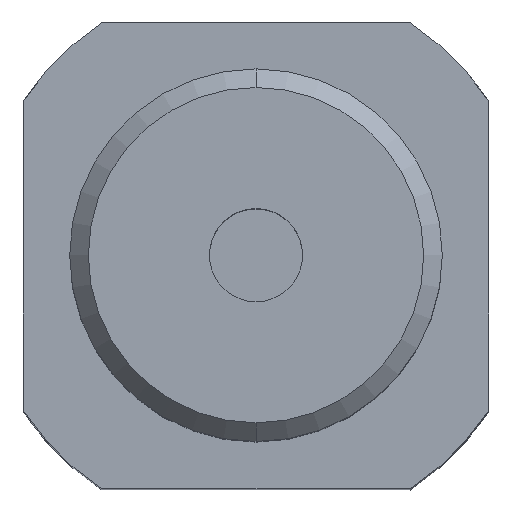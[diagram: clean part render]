
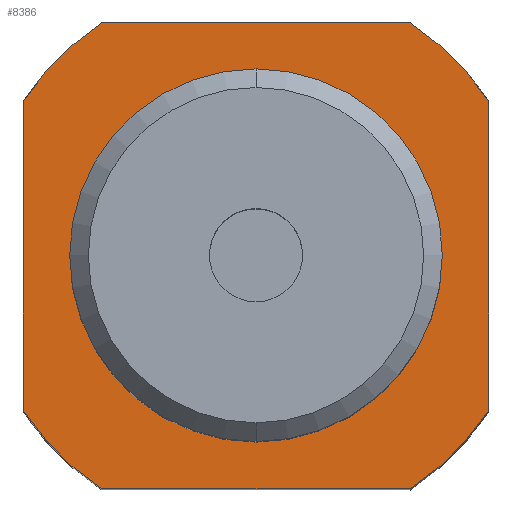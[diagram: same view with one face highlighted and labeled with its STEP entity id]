
A CAD part, top view. The second image highlights one B-rep face of the part: STEP entity #8386.
In plain terms, the highlighted planar face has unit normal (0, 0, 1).
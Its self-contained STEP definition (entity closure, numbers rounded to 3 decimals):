
#72 = CARTESIAN_POINT ( 'NONE',  ( -12.921, 24.686, 10.244 ) ) ;
#79 = CIRCLE ( 'NONE', #965, 10. ) ;
#80 = EDGE_CURVE ( 'NONE', #3268, #315, #2908, .T. ) ;
#267 = VERTEX_POINT ( 'NONE', #7998 ) ;
#281 = VERTEX_POINT ( 'NONE', #1155 ) ;
#315 = VERTEX_POINT ( 'NONE', #3474 ) ;
#367 = LINE ( 'NONE', #6983, #4239 ) ;
#437 = DIRECTION ( 'NONE',  ( 1., 0., 0. ) ) ;
#586 = CARTESIAN_POINT ( 'NONE',  ( -4.63, 2.186, 10.244 ) ) ;
#599 = CIRCLE ( 'NONE', #7098, 15. ) ;
#844 = DIRECTION ( 'NONE',  ( 1., 0., 0. ) ) ;
#864 = CARTESIAN_POINT ( 'NONE',  ( -4.63, 22.186, 10.244 ) ) ;
#904 = VECTOR ( 'NONE', #8998, 1000. ) ;
#932 = DIRECTION ( 'NONE',  ( 0., 1., 0. ) ) ;
#940 = EDGE_LOOP ( 'NONE', ( #8060, #4061, #1644, #2140, #8967, #1582, #1025, #1832 ) ) ;
#945 = EDGE_CURVE ( 'NONE', #267, #3268, #8021, .T. ) ;
#965 = AXIS2_PLACEMENT_3D ( 'NONE', #6794, #6760, #8267 ) ;
#1025 = ORIENTED_EDGE ( 'NONE', *, *, #4291, .T. ) ;
#1043 = EDGE_CURVE ( 'NONE', #7310, #3372, #9539, .T. ) ;
#1155 = CARTESIAN_POINT ( 'NONE',  ( -17.13, 3.894, 10.244 ) ) ;
#1582 = ORIENTED_EDGE ( 'NONE', *, *, #8227, .T. ) ;
#1619 = DIRECTION ( 'NONE',  ( 0., 0., -1. ) ) ;
#1644 = ORIENTED_EDGE ( 'NONE', *, *, #80, .T. ) ;
#1727 = FACE_OUTER_BOUND ( 'NONE', #940, .T. ) ;
#1832 = ORIENTED_EDGE ( 'NONE', *, *, #6713, .T. ) ;
#2027 = CARTESIAN_POINT ( 'NONE',  ( -12.921, -0.314, 10.244 ) ) ;
#2140 = ORIENTED_EDGE ( 'NONE', *, *, #6717, .T. ) ;
#2619 = CARTESIAN_POINT ( 'NONE',  ( -17.13, -0.314, 10.244 ) ) ;
#2687 = AXIS2_PLACEMENT_3D ( 'NONE', #5349, #3037, #2975 ) ;
#2908 = CIRCLE ( 'NONE', #3195, 15. ) ;
#2948 = CARTESIAN_POINT ( 'NONE',  ( 7.87, 3.894, 10.244 ) ) ;
#2967 = ORIENTED_EDGE ( 'NONE', *, *, #5885, .T. ) ;
#2975 = DIRECTION ( 'NONE',  ( 0., 1., 0. ) ) ;
#3037 = DIRECTION ( 'NONE',  ( 0., 0., 1. ) ) ;
#3057 = VERTEX_POINT ( 'NONE', #9524 ) ;
#3195 = AXIS2_PLACEMENT_3D ( 'NONE', #9250, #4000, #932 ) ;
#3268 = VERTEX_POINT ( 'NONE', #72 ) ;
#3372 = VERTEX_POINT ( 'NONE', #864 ) ;
#3413 = CARTESIAN_POINT ( 'NONE',  ( -17.13, 12.186, 10.244 ) ) ;
#3474 = CARTESIAN_POINT ( 'NONE',  ( -17.13, 20.477, 10.244 ) ) ;
#3725 = DIRECTION ( 'NONE',  ( 0., 1., 0. ) ) ;
#3728 = FACE_BOUND ( 'NONE', #9169, .T. ) ;
#3768 = CARTESIAN_POINT ( 'NONE',  ( 3.662, -0.314, 10.244 ) ) ;
#3966 = AXIS2_PLACEMENT_3D ( 'NONE', #2619, #6516, #437 ) ;
#4000 = DIRECTION ( 'NONE',  ( 0., 0., 1. ) ) ;
#4061 = ORIENTED_EDGE ( 'NONE', *, *, #945, .T. ) ;
#4239 = VECTOR ( 'NONE', #844, 1000. ) ;
#4291 = EDGE_CURVE ( 'NONE', #8231, #8045, #6878, .T. ) ;
#4652 = CARTESIAN_POINT ( 'NONE',  ( -4.63, 12.186, 10.244 ) ) ;
#4691 = AXIS2_PLACEMENT_3D ( 'NONE', #4652, #1619, #5410 ) ;
#5222 = DIRECTION ( 'NONE',  ( 0., 0., 1. ) ) ;
#5349 = CARTESIAN_POINT ( 'NONE',  ( -4.63, 12.186, 10.244 ) ) ;
#5410 = DIRECTION ( 'NONE',  ( 0., 1., 0. ) ) ;
#5885 = EDGE_CURVE ( 'NONE', #3372, #7310, #79, .T. ) ;
#5946 = VECTOR ( 'NONE', #7958, 1000. ) ;
#5986 = CIRCLE ( 'NONE', #2687, 15. ) ;
#6027 = DIRECTION ( 'NONE',  ( 0., 0., 1. ) ) ;
#6054 = CARTESIAN_POINT ( 'NONE',  ( -4.63, 24.686, 10.244 ) ) ;
#6160 = DIRECTION ( 'NONE',  ( 0., 1., 0. ) ) ;
#6321 = AXIS2_PLACEMENT_3D ( 'NONE', #7545, #6027, #6160 ) ;
#6385 = VERTEX_POINT ( 'NONE', #2027 ) ;
#6445 = PLANE ( 'NONE',  #3966 ) ;
#6516 = DIRECTION ( 'NONE',  ( 0., 0., 1. ) ) ;
#6713 = EDGE_CURVE ( 'NONE', #8045, #3057, #6908, .T. ) ;
#6717 = EDGE_CURVE ( 'NONE', #315, #281, #8188, .T. ) ;
#6742 = DIRECTION ( 'NONE',  ( 0., -1., 0. ) ) ;
#6760 = DIRECTION ( 'NONE',  ( 0., 0., -1. ) ) ;
#6794 = CARTESIAN_POINT ( 'NONE',  ( -4.63, 12.186, 10.244 ) ) ;
#6878 = CIRCLE ( 'NONE', #6321, 15. ) ;
#6908 = LINE ( 'NONE', #7927, #5946 ) ;
#6983 = CARTESIAN_POINT ( 'NONE',  ( -4.63, -0.314, 10.244 ) ) ;
#7098 = AXIS2_PLACEMENT_3D ( 'NONE', #9764, #5222, #3725 ) ;
#7310 = VERTEX_POINT ( 'NONE', #586 ) ;
#7484 = VECTOR ( 'NONE', #6742, 1000. ) ;
#7545 = CARTESIAN_POINT ( 'NONE',  ( -4.63, 12.186, 10.244 ) ) ;
#7927 = CARTESIAN_POINT ( 'NONE',  ( 7.87, 12.186, 10.244 ) ) ;
#7958 = DIRECTION ( 'NONE',  ( 0., 1., 0. ) ) ;
#7998 = CARTESIAN_POINT ( 'NONE',  ( 3.662, 24.686, 10.244 ) ) ;
#8021 = LINE ( 'NONE', #6054, #904 ) ;
#8045 = VERTEX_POINT ( 'NONE', #2948 ) ;
#8060 = ORIENTED_EDGE ( 'NONE', *, *, #9550, .T. ) ;
#8148 = EDGE_CURVE ( 'NONE', #281, #6385, #599, .T. ) ;
#8188 = LINE ( 'NONE', #3413, #7484 ) ;
#8227 = EDGE_CURVE ( 'NONE', #6385, #8231, #367, .T. ) ;
#8231 = VERTEX_POINT ( 'NONE', #3768 ) ;
#8267 = DIRECTION ( 'NONE',  ( 0., 1., 0. ) ) ;
#8386 = ADVANCED_FACE ( 'NONE', ( #3728, #1727 ), #6445, .T. ) ;
#8525 = ORIENTED_EDGE ( 'NONE', *, *, #1043, .T. ) ;
#8967 = ORIENTED_EDGE ( 'NONE', *, *, #8148, .T. ) ;
#8998 = DIRECTION ( 'NONE',  ( -1., 0., 0. ) ) ;
#9169 = EDGE_LOOP ( 'NONE', ( #2967, #8525 ) ) ;
#9250 = CARTESIAN_POINT ( 'NONE',  ( -4.63, 12.186, 10.244 ) ) ;
#9524 = CARTESIAN_POINT ( 'NONE',  ( 7.87, 20.477, 10.244 ) ) ;
#9539 = CIRCLE ( 'NONE', #4691, 10. ) ;
#9550 = EDGE_CURVE ( 'NONE', #3057, #267, #5986, .T. ) ;
#9764 = CARTESIAN_POINT ( 'NONE',  ( -4.63, 12.186, 10.244 ) ) ;
